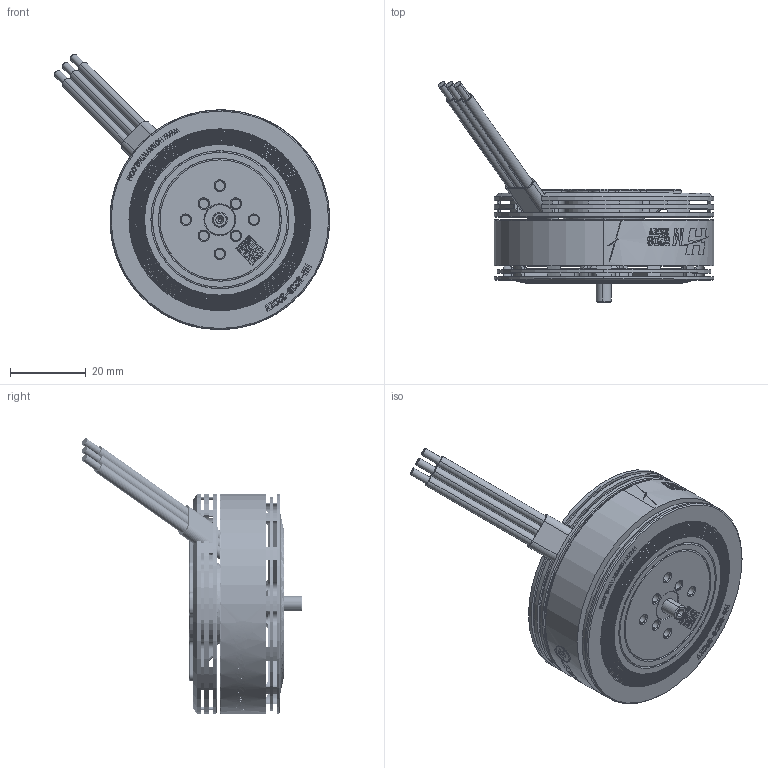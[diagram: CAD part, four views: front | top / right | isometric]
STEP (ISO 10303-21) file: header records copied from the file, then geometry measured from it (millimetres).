
FILE_DESCRIPTION (( 'STEP AP203' ), '1' );
FILE_NAME ('HM-5208-UL-萇儂3D-勤俋-231102.STEP', '2023-11-03T02:05:58', ( '' ), ( '' ), 'SwSTEP 2.0', 'SolidWorks 2021', '' );
FILE_SCHEMA (( 'CONFIG_CONTROL_DESIGN' ));
Products named in the file (1): HM-5208-UL-萇儂3D-勤俋-231102
Bounding box: 72.72 x 58.13 x 72.65 mm (x, y, z)
Volume: 41068.6 mm3; surface area: 26062.3 mm2
Topology: 9 solids, 10 shells, 2876 faces, 8080 edges, 5178 vertices
Faces by surface type: plane 1345, cylinder 655, bspline 593, cone 283
Entity records: 118803 total; most frequent: CARTESIAN_POINT 47137, ORIENTED_EDGE 16136, DIRECTION 13486, EDGE_CURVE 8068, VERTEX_POINT 5178, AXIS2_PLACEMENT_3D 4506, LINE 4474, VECTOR 4474
